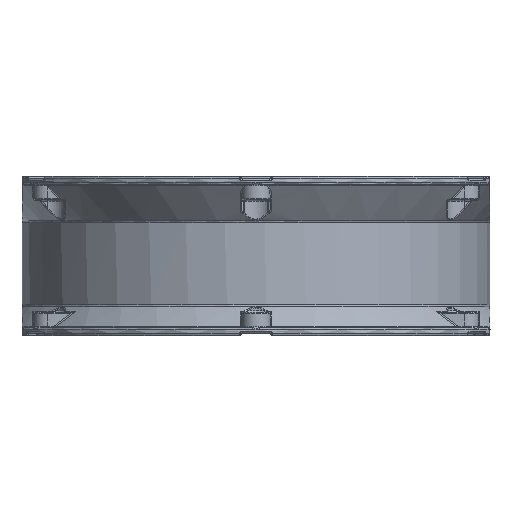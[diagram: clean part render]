
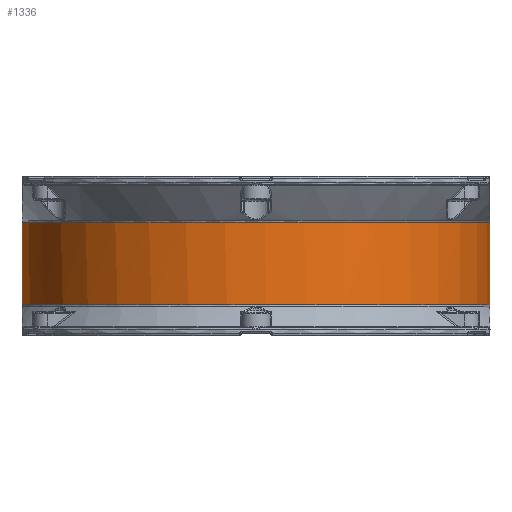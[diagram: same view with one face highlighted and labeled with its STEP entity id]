
A CAD part, front view. The second image highlights one B-rep face of the part: STEP entity #1336.
In plain terms, the highlighted cylindrical face has radius 75 mm (diameter 150 mm), a partial arc.
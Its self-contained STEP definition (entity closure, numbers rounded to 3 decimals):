
#1336 = ADVANCED_FACE ( 'NONE', ( #11823 ), #15498, .T. ) ;
#1776 = VERTEX_POINT ( 'NONE', #46696 ) ;
#2103 = CARTESIAN_POINT ( 'NONE',  ( -75., 0., -14.5 ) ) ;
#2390 = ORIENTED_EDGE ( 'NONE', *, *, #12550, .T. ) ;
#2560 = EDGE_CURVE ( 'NONE', #1776, #41820, #23094, .T. ) ;
#2852 = CARTESIAN_POINT ( 'NONE',  ( 0., 0., -41.078 ) ) ;
#2975 = CIRCLE ( 'NONE', #34572, 75. ) ;
#6145 = AXIS2_PLACEMENT_3D ( 'NONE', #19182, #28219, #49406 ) ;
#6739 = ORIENTED_EDGE ( 'NONE', *, *, #29774, .T. ) ;
#6851 = ORIENTED_EDGE ( 'NONE', *, *, #2560, .T. ) ;
#7200 = CARTESIAN_POINT ( 'NONE',  ( -75., 0., -14.5 ) ) ;
#7885 = DIRECTION ( 'NONE',  ( -1., 0., 0. ) ) ;
#8470 = CARTESIAN_POINT ( 'NONE',  ( 75., 0., -14.833 ) ) ;
#8828 = CARTESIAN_POINT ( 'NONE',  ( -74.882, -4.673, -41.078 ) ) ;
#9316 = EDGE_CURVE ( 'NONE', #13527, #39860, #26075, .T. ) ;
#10305 = CARTESIAN_POINT ( 'NONE',  ( -75., 0., -41.5 ) ) ;
#11708 = CARTESIAN_POINT ( 'NONE',  ( -74.698, -6.72, -41.078 ) ) ;
#11823 = FACE_OUTER_BOUND ( 'NONE', #40425, .T. ) ;
#12149 = CARTESIAN_POINT ( 'NONE',  ( 0., 0., -14.833 ) ) ;
#12337 = B_SPLINE_CURVE_WITH_KNOTS ( 'NONE', 3,
 ( #28976, #32357, #46193, #7200 ),
 .UNSPECIFIED., .F., .F.,
 ( 4, 4 ),
 ( 0., 1. ),
 .UNSPECIFIED. ) ;
#12521 = VERTEX_POINT ( 'NONE', #2103 ) ;
#12550 = EDGE_CURVE ( 'NONE', #26858, #12521, #12337, .T. ) ;
#13527 = VERTEX_POINT ( 'NONE', #10305 ) ;
#14849 = CIRCLE ( 'NONE', #18487, 75. ) ;
#15498 = CYLINDRICAL_SURFACE ( 'NONE', #6145, 75. ) ;
#18487 = AXIS2_PLACEMENT_3D ( 'NONE', #2852, #32846, #50102 ) ;
#18806 = ORIENTED_EDGE ( 'NONE', *, *, #9316, .T. ) ;
#19182 = CARTESIAN_POINT ( 'NONE',  ( 0., 0., -54.552 ) ) ;
#23094 = LINE ( 'NONE', #40310, #27750 ) ;
#24835 = VECTOR ( 'NONE', #33827, 1000. ) ;
#25064 = LINE ( 'NONE', #42275, #24835 ) ;
#26075 = B_SPLINE_CURVE_WITH_KNOTS ( 'NONE', 3,
 ( #26902, #30053, #8828, #43297 ),
 .UNSPECIFIED., .F., .F.,
 ( 4, 4 ),
 ( 0., 1. ),
 .UNSPECIFIED. ) ;
#26858 = VERTEX_POINT ( 'NONE', #55266 ) ;
#26902 = CARTESIAN_POINT ( 'NONE',  ( -75., 0., -41.5 ) ) ;
#27750 = VECTOR ( 'NONE', #31851, 1000. ) ;
#28219 = DIRECTION ( 'NONE',  ( 0., 0., -1. ) ) ;
#28976 = CARTESIAN_POINT ( 'NONE',  ( -74.801, -5.466, -14.833 ) ) ;
#29774 = EDGE_CURVE ( 'NONE', #41820, #26858, #2975, .T. ) ;
#30053 = CARTESIAN_POINT ( 'NONE',  ( -75., -2.431, -41.218 ) ) ;
#31851 = DIRECTION ( 'NONE',  ( 0., 0., 1. ) ) ;
#31872 = EDGE_CURVE ( 'NONE', #39860, #1776, #14849, .T. ) ;
#32357 = CARTESIAN_POINT ( 'NONE',  ( -74.926, -3.743, -14.833 ) ) ;
#32647 = ORIENTED_EDGE ( 'NONE', *, *, #32743, .T. ) ;
#32743 = EDGE_CURVE ( 'NONE', #12521, #13527, #25064, .T. ) ;
#32846 = DIRECTION ( 'NONE',  ( 0., 0., 1. ) ) ;
#33827 = DIRECTION ( 'NONE',  ( 0., 0., -1. ) ) ;
#34572 = AXIS2_PLACEMENT_3D ( 'NONE', #12149, #42617, #7885 ) ;
#39860 = VERTEX_POINT ( 'NONE', #11708 ) ;
#40310 = CARTESIAN_POINT ( 'NONE',  ( 75., 0., -54.552 ) ) ;
#40425 = EDGE_LOOP ( 'NONE', ( #2390, #32647, #18806, #50114, #6851, #6739 ) ) ;
#41820 = VERTEX_POINT ( 'NONE', #8470 ) ;
#42275 = CARTESIAN_POINT ( 'NONE',  ( -75., 0., -54.552 ) ) ;
#42617 = DIRECTION ( 'NONE',  ( 0., 0., -1. ) ) ;
#43297 = CARTESIAN_POINT ( 'NONE',  ( -74.698, -6.72, -41.078 ) ) ;
#46193 = CARTESIAN_POINT ( 'NONE',  ( -75., -1.92, -14.722 ) ) ;
#46696 = CARTESIAN_POINT ( 'NONE',  ( 75., 0., -41.078 ) ) ;
#49406 = DIRECTION ( 'NONE',  ( -1., 0., 0. ) ) ;
#50102 = DIRECTION ( 'NONE',  ( -1., 0., 0. ) ) ;
#50114 = ORIENTED_EDGE ( 'NONE', *, *, #31872, .T. ) ;
#55266 = CARTESIAN_POINT ( 'NONE',  ( -74.801, -5.466, -14.833 ) ) ;
